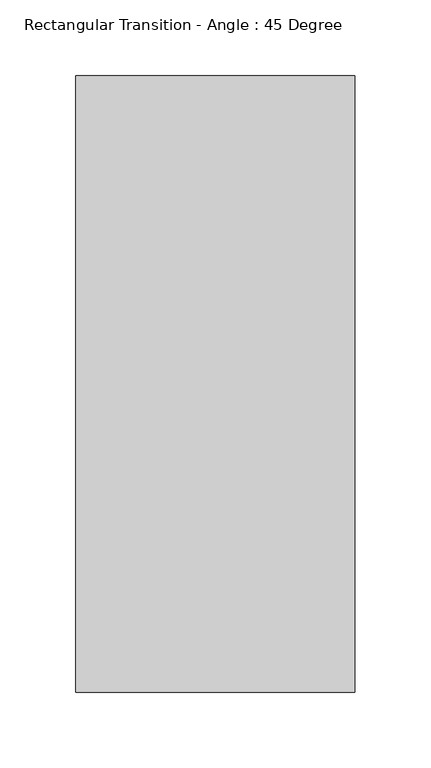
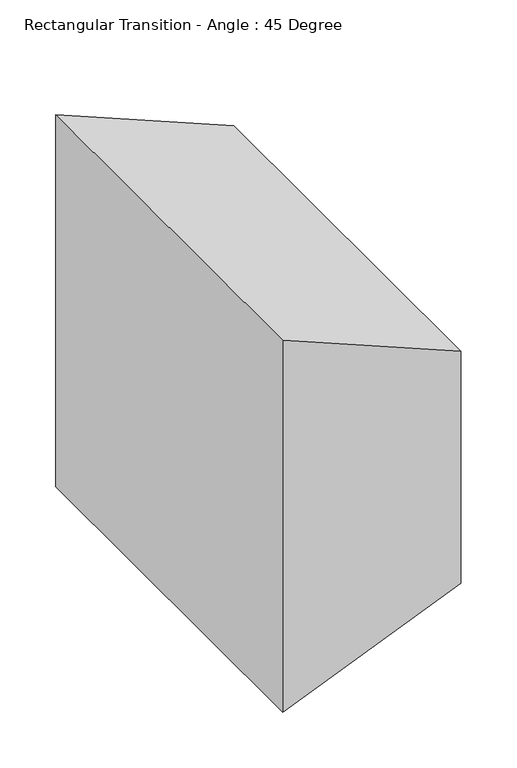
"""IFC4 building model written with IfcOpenShell, lengths in millimetres: duct fitting geometry, Rectangular Transition - Angle : 45 Degree."""

from ifc_helpers import new_model, si_unit, frame, origin, place, context, project, spatial, polyline, outline, extrude, source, transform, mapped, element, save


def rectangular_transition_angle_45_degree_9c68b8d8(model_context):
    return source(origin(), model_context, "Body", "SweptSolid", [
        extrude(outline(polyline([(203.2, 0.0), (-203.2, 0.0), (-127.0, 183.9630735), (127.0, 183.9630735), (203.2, 0.0)])), frame((0.0, -203.2, 0.0), z_axis=(0.0, 1.0, 0.0), x_axis=(0.0, 0.0, 1.0)), (0.0, 0.0, 1.0), 406.4),
    ])


if __name__ == "__main__":
    model = new_model("IFC4")
    model_context = context("Model", 3, world=origin())
    ifc_project = project(units=[si_unit("LENGTHUNIT", "METRE", prefix="MILLI")], contexts=[model_context])
    site = spatial("IfcSite", under=ifc_project)
    building = spatial("IfcBuilding", under=site)
    placement = place(None, origin())
    rectangular_transition_angle_45_degree_shape = rectangular_transition_angle_45_degree_9c68b8d8(model_context)
    element("IfcDuctFitting", 1, ObjectType="Rectangular Transition - Angle : 45 Degree", at=placement, inside=building, context=model_context, shape_type="MappedRepresentation", body=[
        mapped(rectangular_transition_angle_45_degree_shape, transform((0.0, 0.0, 0.0), x_axis=(1.0, 0.0, 0.0), y_axis=(0.0, 1.0, 0.0), z_axis=(0.0, 0.0, 1.0))),
    ])
    save(model, "model.ifc")
